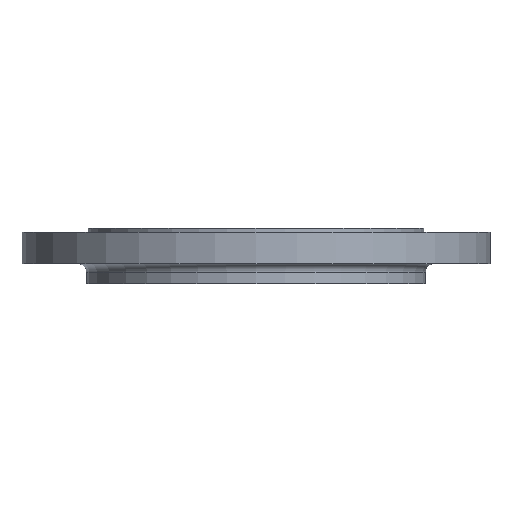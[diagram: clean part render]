
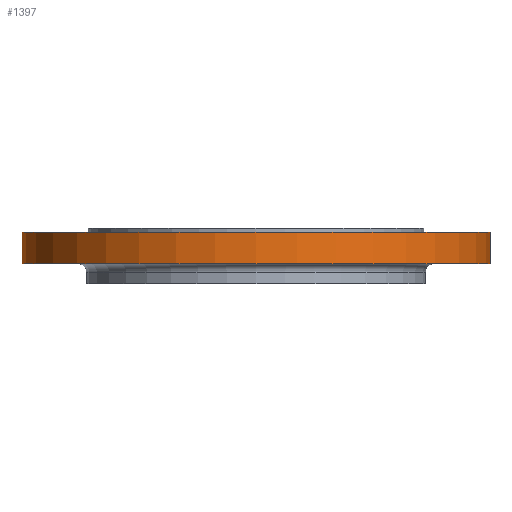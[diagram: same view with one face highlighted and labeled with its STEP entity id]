
A CAD part, front view. The second image highlights one B-rep face of the part: STEP entity #1397.
In plain terms, the highlighted cylindrical face has radius 330 mm (diameter 660 mm), a partial arc.
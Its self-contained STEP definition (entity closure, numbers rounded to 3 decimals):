
#59 = EDGE_CURVE ( 'NONE', #970, #950, #532, .T. ) ;
#123 = CARTESIAN_POINT ( 'NONE',  ( -330., 0., -50. ) ) ;
#128 = CARTESIAN_POINT ( 'NONE',  ( 330., 0., -50. ) ) ;
#137 = CARTESIAN_POINT ( 'NONE',  ( -330., 0., -5.5 ) ) ;
#153 = VECTOR ( 'NONE', #527, 1000. ) ;
#176 = CARTESIAN_POINT ( 'NONE',  ( 330., 0., -5.5 ) ) ;
#209 = DIRECTION ( 'NONE',  ( 1., 0., 0. ) ) ;
#210 = DIRECTION ( 'NONE',  ( 0., 0., 1. ) ) ;
#212 = CARTESIAN_POINT ( 'NONE',  ( 0., 0., -50. ) ) ;
#527 = DIRECTION ( 'NONE',  ( 0., 0., 1. ) ) ;
#531 = CARTESIAN_POINT ( 'NONE',  ( -330., 0., -145. ) ) ;
#532 = LINE ( 'NONE', #531, #153 ) ;
#614 = CIRCLE ( 'NONE', #1512, 330. ) ;
#736 = AXIS2_PLACEMENT_3D ( 'NONE', #1538, #1537, #1533 ) ;
#892 = EDGE_CURVE ( 'NONE', #970, #965, #614, .T. ) ;
#924 = VERTEX_POINT ( 'NONE', #176 ) ;
#935 = CIRCLE ( 'NONE', #980, 330. ) ;
#950 = VERTEX_POINT ( 'NONE', #137 ) ;
#965 = VERTEX_POINT ( 'NONE', #128 ) ;
#970 = VERTEX_POINT ( 'NONE', #123 ) ;
#980 = AXIS2_PLACEMENT_3D ( 'NONE', #1551, #1550, #1544 ) ;
#1117 = VECTOR ( 'NONE', #1566, 1000. ) ;
#1124 = EDGE_LOOP ( 'NONE', ( #1229, #1232, #1238, #1243 ) ) ;
#1229 = ORIENTED_EDGE ( 'NONE', *, *, #59, .F. ) ;
#1232 = ORIENTED_EDGE ( 'NONE', *, *, #892, .T. ) ;
#1238 = ORIENTED_EDGE ( 'NONE', *, *, #1383, .T. ) ;
#1243 = ORIENTED_EDGE ( 'NONE', *, *, #1396, .T. ) ;
#1383 = EDGE_CURVE ( 'NONE', #965, #924, #1572, .T. ) ;
#1396 = EDGE_CURVE ( 'NONE', #924, #950, #935, .T. ) ;
#1397 = ADVANCED_FACE ( 'NONE', ( #1540 ), #1539, .T. ) ;
#1512 = AXIS2_PLACEMENT_3D ( 'NONE', #212, #210, #209 ) ;
#1533 = DIRECTION ( 'NONE',  ( 1., 0., 0. ) ) ;
#1537 = DIRECTION ( 'NONE',  ( 0., 0., 1. ) ) ;
#1538 = CARTESIAN_POINT ( 'NONE',  ( 0., 0., -145. ) ) ;
#1539 = CYLINDRICAL_SURFACE ( 'NONE', #736, 330. ) ;
#1540 = FACE_OUTER_BOUND ( 'NONE', #1124, .T. ) ;
#1544 = DIRECTION ( 'NONE',  ( -1., 0., 0. ) ) ;
#1550 = DIRECTION ( 'NONE',  ( 0., 0., -1. ) ) ;
#1551 = CARTESIAN_POINT ( 'NONE',  ( 0., 0., -5.5 ) ) ;
#1566 = DIRECTION ( 'NONE',  ( 0., 0., 1. ) ) ;
#1570 = CARTESIAN_POINT ( 'NONE',  ( 330., 0., -145. ) ) ;
#1572 = LINE ( 'NONE', #1570, #1117 ) ;
